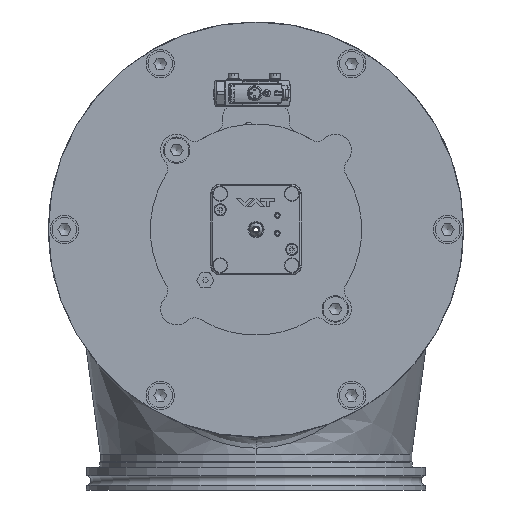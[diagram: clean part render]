
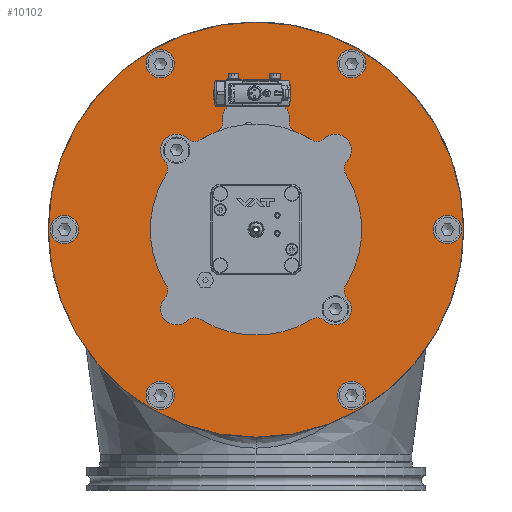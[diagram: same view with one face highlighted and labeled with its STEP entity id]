
A CAD part, left-side view. The second image highlights one B-rep face of the part: STEP entity #10102.
In plain terms, the highlighted planar face has unit normal (-1, 0, 0).
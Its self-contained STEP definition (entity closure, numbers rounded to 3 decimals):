
#10102=ADVANCED_FACE('BCT_REF_99568',(#13443,#13444,#13445,#13446,#13447,
#13448,#13449,#13450,#13451,#13452,#13453,#13454),#11313,.T.);
#11313=PLANE('',#32154);
#12253=CIRCLE('',#32102,110.);
#12277=CIRCLE('',#32143,55.145);
#12278=CIRCLE('',#32144,3.4);
#12279=CIRCLE('',#32145,3.4);
#12280=CIRCLE('',#32146,3.4);
#12281=CIRCLE('',#32147,3.4);
#12282=CIRCLE('',#32148,7.5);
#12283=CIRCLE('',#32149,7.5);
#12284=CIRCLE('',#32150,7.5);
#12285=CIRCLE('',#32151,7.5);
#12286=CIRCLE('',#32152,7.5);
#12287=CIRCLE('',#32153,7.5);
#13443=FACE_BOUND('',#14549,.T.);
#13444=FACE_BOUND('',#14550,.T.);
#13445=FACE_BOUND('',#14551,.T.);
#13446=FACE_BOUND('',#14552,.T.);
#13447=FACE_BOUND('',#14553,.T.);
#13448=FACE_BOUND('',#14554,.T.);
#13449=FACE_BOUND('',#14555,.T.);
#13450=FACE_BOUND('',#14556,.T.);
#13451=FACE_BOUND('',#14557,.T.);
#13452=FACE_BOUND('',#14558,.T.);
#13453=FACE_BOUND('',#14559,.T.);
#13454=FACE_BOUND('',#14560,.T.);
#14549=EDGE_LOOP('',(#17632));
#14550=EDGE_LOOP('',(#17633));
#14551=EDGE_LOOP('',(#17634));
#14552=EDGE_LOOP('',(#17635));
#14553=EDGE_LOOP('',(#17636));
#14554=EDGE_LOOP('',(#17637));
#14555=EDGE_LOOP('',(#17638));
#14556=EDGE_LOOP('',(#17639));
#14557=EDGE_LOOP('',(#17640));
#14558=EDGE_LOOP('',(#17641));
#14559=EDGE_LOOP('',(#17642));
#14560=EDGE_LOOP('',(#17643));
#17632=ORIENTED_EDGE('',*,*,#25607,.T.);
#17633=ORIENTED_EDGE('',*,*,#25608,.T.);
#17634=ORIENTED_EDGE('',*,*,#25609,.T.);
#17635=ORIENTED_EDGE('',*,*,#25610,.T.);
#17636=ORIENTED_EDGE('',*,*,#25611,.T.);
#17637=ORIENTED_EDGE('',*,*,#25612,.T.);
#17638=ORIENTED_EDGE('',*,*,#25613,.T.);
#17639=ORIENTED_EDGE('',*,*,#25614,.T.);
#17640=ORIENTED_EDGE('',*,*,#25615,.T.);
#17641=ORIENTED_EDGE('',*,*,#25616,.T.);
#17642=ORIENTED_EDGE('',*,*,#25617,.T.);
#17643=ORIENTED_EDGE('',*,*,#25582,.T.);
#23064=VERTEX_POINT('',#46619);
#23089=VERTEX_POINT('',#46743);
#23090=VERTEX_POINT('',#46745);
#23091=VERTEX_POINT('',#46747);
#23092=VERTEX_POINT('',#46749);
#23093=VERTEX_POINT('',#46751);
#23094=VERTEX_POINT('',#46753);
#23095=VERTEX_POINT('',#46755);
#23096=VERTEX_POINT('',#46757);
#23097=VERTEX_POINT('',#46759);
#23098=VERTEX_POINT('',#46761);
#23099=VERTEX_POINT('',#46763);
#25582=EDGE_CURVE('',#23064,#23064,#12253,.T.);
#25607=EDGE_CURVE('',#23089,#23089,#12277,.T.);
#25608=EDGE_CURVE('',#23090,#23090,#12278,.T.);
#25609=EDGE_CURVE('',#23091,#23091,#12279,.T.);
#25610=EDGE_CURVE('BCT_REF_99699',#23092,#23092,#12280,.T.);
#25611=EDGE_CURVE('',#23093,#23093,#12281,.T.);
#25612=EDGE_CURVE('',#23094,#23094,#12282,.T.);
#25613=EDGE_CURVE('',#23095,#23095,#12283,.T.);
#25614=EDGE_CURVE('',#23096,#23096,#12284,.T.);
#25615=EDGE_CURVE('BCT_REF_99655',#23097,#23097,#12285,.T.);
#25616=EDGE_CURVE('',#23098,#23098,#12286,.T.);
#25617=EDGE_CURVE('',#23099,#23099,#12287,.T.);
#32102=AXIS2_PLACEMENT_3D('',#46618,#35743,#35744);
#32143=AXIS2_PLACEMENT_3D('',#46742,#35825,#35826);
#32144=AXIS2_PLACEMENT_3D('',#46744,#35827,#35828);
#32145=AXIS2_PLACEMENT_3D('',#46746,#35829,#35830);
#32146=AXIS2_PLACEMENT_3D('',#46748,#35831,#35832);
#32147=AXIS2_PLACEMENT_3D('',#46750,#35833,#35834);
#32148=AXIS2_PLACEMENT_3D('',#46752,#35835,#35836);
#32149=AXIS2_PLACEMENT_3D('',#46754,#35837,#35838);
#32150=AXIS2_PLACEMENT_3D('',#46756,#35839,#35840);
#32151=AXIS2_PLACEMENT_3D('',#46758,#35841,#35842);
#32152=AXIS2_PLACEMENT_3D('',#46760,#35843,#35844);
#32153=AXIS2_PLACEMENT_3D('',#46762,#35845,#35846);
#32154=AXIS2_PLACEMENT_3D('',#46764,#35847,#35848);
#35743=DIRECTION('',(-1.,0.,0.));
#35744=DIRECTION('',(0.,0.,1.));
#35825=DIRECTION('',(1.,0.,0.));
#35826=DIRECTION('',(0.,0.,1.));
#35827=DIRECTION('',(1.,0.,0.));
#35828=DIRECTION('',(0.,-1.,0.));
#35829=DIRECTION('',(1.,0.,0.));
#35830=DIRECTION('',(0.,0.,1.));
#35831=DIRECTION('',(1.,0.,0.));
#35832=DIRECTION('',(0.,1.,0.));
#35833=DIRECTION('',(1.,0.,0.));
#35834=DIRECTION('',(0.,0.,-1.));
#35835=DIRECTION('',(1.,0.,0.));
#35836=DIRECTION('',(0.,-0.866,-0.5));
#35837=DIRECTION('',(1.,0.,0.));
#35838=DIRECTION('',(0.,-0.866,0.5));
#35839=DIRECTION('',(1.,0.,0.));
#35840=DIRECTION('',(0.,0.,1.));
#35841=DIRECTION('',(1.,0.,0.));
#35842=DIRECTION('',(0.,0.866,0.5));
#35843=DIRECTION('',(1.,0.,0.));
#35844=DIRECTION('',(0.,0.866,-0.5));
#35845=DIRECTION('',(1.,0.,0.));
#35846=DIRECTION('',(0.,0.,-1.));
#35847=DIRECTION('',(-1.,0.,0.));
#35848=DIRECTION('',(0.,0.,1.));
#46618=CARTESIAN_POINT('',(0.,0.,0.));
#46619=CARTESIAN_POINT('',(0.,0.,110.));
#46742=CARTESIAN_POINT('',(0.,0.,0.));
#46743=CARTESIAN_POINT('',(0.,0.,55.145));
#46744=CARTESIAN_POINT('',(0.,42.073,42.073));
#46745=CARTESIAN_POINT('',(0.,38.673,42.073));
#46746=CARTESIAN_POINT('',(0.,42.073,-42.073));
#46747=CARTESIAN_POINT('',(0.,42.073,-38.673));
#46748=CARTESIAN_POINT('',(0.,-42.073,-42.073));
#46749=CARTESIAN_POINT('',(0.,-38.673,-42.073));
#46750=CARTESIAN_POINT('',(0.,-42.073,42.073));
#46751=CARTESIAN_POINT('',(0.,-42.073,38.673));
#46752=CARTESIAN_POINT('',(0.,50.75,-87.902));
#46753=CARTESIAN_POINT('',(0.,44.255,-91.652));
#46754=CARTESIAN_POINT('',(0.,-50.75,-87.902));
#46755=CARTESIAN_POINT('',(0.,-57.245,-84.152));
#46756=CARTESIAN_POINT('',(0.,-101.5,0.));
#46757=CARTESIAN_POINT('',(0.,-101.5,7.5));
#46758=CARTESIAN_POINT('',(0.,-50.75,87.902));
#46759=CARTESIAN_POINT('',(0.,-44.255,91.652));
#46760=CARTESIAN_POINT('',(0.,50.75,87.902));
#46761=CARTESIAN_POINT('',(0.,57.245,84.152));
#46762=CARTESIAN_POINT('',(0.,101.5,0.));
#46763=CARTESIAN_POINT('',(0.,101.5,-7.5));
#46764=CARTESIAN_POINT('',(0.,54.645,0.));
